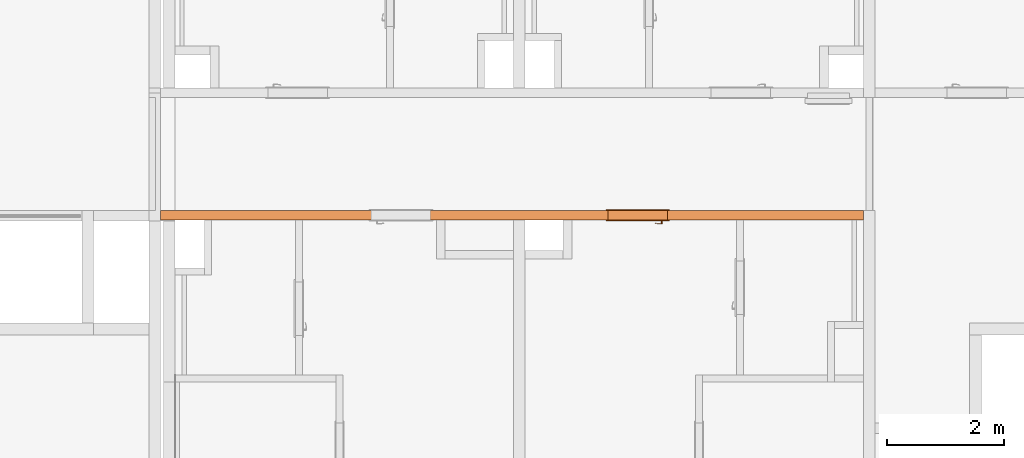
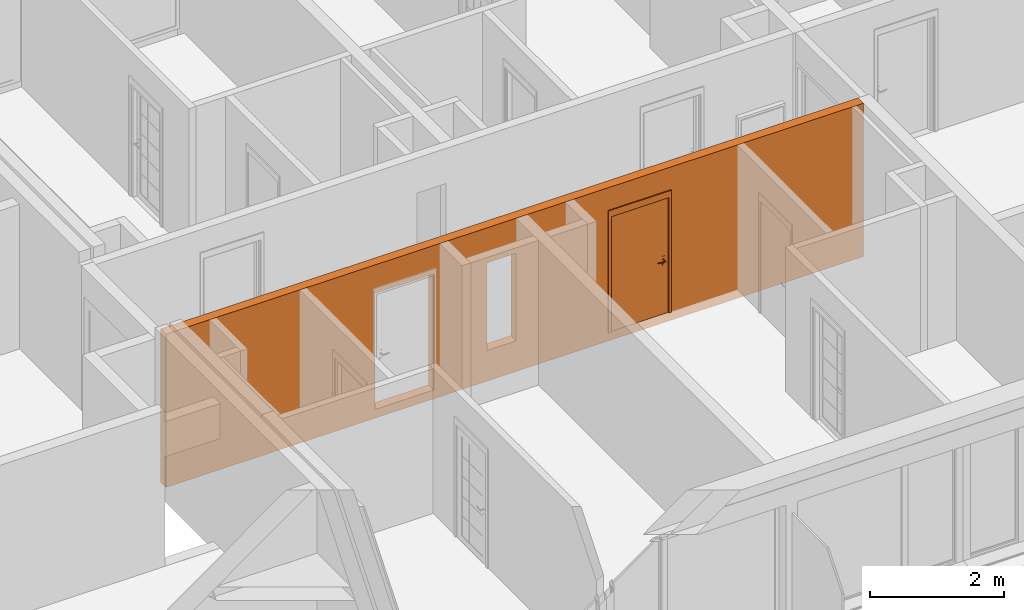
# One storey, part 24 of 67: 2 proxies, 3 openings.
"""IFC2X3 building model written with IfcOpenShell, lengths in millimetres."""

import ifcopenshell
import ifcopenshell.guid

model = None  # the IFC model being written
_history = None  # IfcOwnerHistory: only IFC2X3 demands one
_inside = {}  # id of a spatial element -> (the spatial element, [elements in it])
_under = {}  # id of a project, library or spatial element -> (it, [spatial elements below it])
_declared = {}  # id of a project -> (the project, [libraries it declares])
_typed = {}  # id of a type object -> (the type object, [elements of that type])
_made_of = {}  # id of a material, layer set ... -> (it, [elements and type objects made of it])


def new_model(schema):
    """Start an empty IFC model of exactly this schema.

    Asked for "IFC4X3", IfcOpenShell would pick the latest addendum, in which some entities
    have other attributes; the version numbers below select the first issue.
    IFC2X3 requires an IfcOwnerHistory on every rooted entity: one is made here for all.
    """
    global model, _history
    if schema == "IFC4X3":
        model = ifcopenshell.file(schema_version=(4, 3, 0, 0))
    else:
        model = ifcopenshell.file(schema=schema)
    _inside.clear()
    _under.clear()
    _declared.clear()
    _typed.clear()
    _made_of.clear()
    _history = None
    if model.schema == "IFC2X3":
        org = make("IfcOrganization", Name="unknown")
        user = make(
            "IfcPersonAndOrganization",
            ThePerson=make("IfcPerson", FamilyName="unknown"),
            TheOrganization=org,
        )
        app = make(
            "IfcApplication",
            ApplicationDeveloper=org,
            Version="unknown",
            ApplicationFullName="unknown",
            ApplicationIdentifier="unknown",
        )
        _history = make(
            "IfcOwnerHistory",
            OwningUser=user,
            OwningApplication=app,
            ChangeAction="ADDED",
            CreationDate=0,
        )
    return model


def make(cls, **values):
    """One entity of the class cls with the attributes given. An attribute that is None is left unset."""
    return model.create_entity(
        cls, **{name: value for name, value in values.items() if value is not None}
    )


def entity(cls, *values):
    """Any entity or typed value of the class cls, its attributes in the order of the schema. None: left unset."""
    e = model.create_entity(cls)
    for i, value in enumerate(values):
        if value is not None:
            e[i] = value
    return e


def rooted(cls, **values):
    """An entity with a GlobalId (a new one), such as an element, a storey or a relation."""
    return make(cls, GlobalId=ifcopenshell.guid.new(), OwnerHistory=_history, **values)


def si_unit(unit_type, name, prefix=None):
    """IfcSIUnit, for example si_unit("LENGTHUNIT", "METRE", prefix="MILLI")."""
    return make("IfcSIUnit", UnitType=unit_type, Prefix=prefix, Name=name)


def converted_unit(unit_type, name, factor, base, dimensions=None, offset=None):
    """IfcConversionBasedUnit, such as the inch: factor (a typed value) times the base unit."""
    return make(
        "IfcConversionBasedUnit"
        if offset is None
        else "IfcConversionBasedUnitWithOffset",
        ConversionOffset=offset,
        Dimensions=None
        if dimensions is None
        else entity("IfcDimensionalExponents", *dimensions),
        UnitType=unit_type,
        Name=name,
        ConversionFactor=make(
            "IfcMeasureWithUnit", ValueComponent=factor, UnitComponent=base
        ),
    )


def derived_unit(unit_type, elements):
    """IfcDerivedUnit: a product of units, each with its exponent."""
    return make(
        "IfcDerivedUnit",
        Elements=[
            make("IfcDerivedUnitElement", Unit=unit, Exponent=power)
            for unit, power in elements
        ],
        UnitType=unit_type,
    )


def money_unit(currency):
    """IfcMonetaryUnit."""
    return make("IfcMonetaryUnit", Currency=currency)


def assignment(units):
    """IfcUnitAssignment: the units of a project."""
    return None if units is None else make("IfcUnitAssignment", Units=units)


def point(xyz):
    """IfcCartesianPoint."""
    return None if xyz is None else make("IfcCartesianPoint", Coordinates=xyz)


def direction(xyz):
    """IfcDirection."""
    return None if xyz is None else make("IfcDirection", DirectionRatios=xyz)


def frame(location, z_axis=None, x_axis=None):
    """IfcAxis2Placement3D, a coordinate frame: its origin and axes. An axis left out is left unset."""
    return make(
        "IfcAxis2Placement3D",
        Location=point(location),
        Axis=direction(z_axis),
        RefDirection=direction(x_axis),
    )


def frame_2d(location, x_axis=None):
    """IfcAxis2Placement2D, a coordinate frame in the plane: its origin and x axis."""
    return make(
        "IfcAxis2Placement2D", Location=point(location), RefDirection=direction(x_axis)
    )


def origin_with_axes():
    """The frame at (0, 0, 0) with the z axis (0, 0, 1) and the x axis (1, 0, 0) written out."""
    return frame((0.0, 0.0, 0.0), z_axis=(0.0, 0.0, 1.0), x_axis=(1.0, 0.0, 0.0))


def origin_2d_with_axis():
    """The frame at (0, 0) in the plane with the x axis (1, 0) written out."""
    return frame_2d((0.0, 0.0), x_axis=(1.0, 0.0))


def place(relative_to, where):
    """IfcLocalPlacement: puts the frame where relative to a parent placement (None: the world)."""
    return make(
        "IfcLocalPlacement", PlacementRelTo=relative_to, RelativePlacement=where
    )


def context(
    kind, dimensions, precision=None, world=None, true_north=None, identifier=None
):
    """IfcGeometricRepresentationContext, for example the 3D "Model" context."""
    return make(
        "IfcGeometricRepresentationContext",
        ContextIdentifier=identifier,
        ContextType=kind,
        CoordinateSpaceDimension=dimensions,
        Precision=precision,
        WorldCoordinateSystem=world,
        TrueNorth=true_north,
    )


def subcontext(parent, identifier, kind, view, scale=None):
    """IfcGeometricRepresentationSubContext, for example "Body" below "Model"."""
    return make(
        "IfcGeometricRepresentationSubContext",
        ContextIdentifier=identifier,
        ContextType=kind,
        ParentContext=parent,
        TargetScale=scale,
        TargetView=view,
    )


def project(units=None, contexts=None):
    """IfcProject with its units and contexts."""
    return rooted(
        "IfcProject",
        Name="project",
        RepresentationContexts=contexts,
        UnitsInContext=assignment(units),
    )


def spatial(cls, under=None, at=None, **own):
    """A site, building, storey or space (cls), placed at a placement, below another one or the project."""
    s = rooted(cls, ObjectPlacement=at, **own)
    if under is not None:
        _under.setdefault(under.id(), (under, []))[1].append(s)
    return s


def profile(cls, at=None, kind="AREA", **sizes):
    """A parametric profile (cls). Its sizes go by their IFC names, for example OverallWidth=200.0."""
    return make(cls, ProfileType=kind, Position=at, **sizes)


def rectangle(**sizes):
    """IfcRectangleProfileDef."""
    return profile("IfcRectangleProfileDef", **sizes)


def extrude(swept, where, along, depth):
    """IfcExtrudedAreaSolid: the profile swept, set in the frame where, extruded along a direction by depth."""
    return make(
        "IfcExtrudedAreaSolid",
        SweptArea=swept,
        Position=where,
        ExtrudedDirection=direction(along),
        Depth=depth,
    )


def faces_of(points, faces, orient=None, outer=None):
    """IfcFace entities. A face is a list of loops; a loop is a list of indices into points, from 0.

    orient and outer hold one flag for each loop. By default every Orientation is true, the
    first loop of a face is its IfcFaceOuterBound and the others are IfcFaceBound.
    """
    made = []
    for i, loops in enumerate(faces):
        bounds = []
        for j, loop in enumerate(loops):
            is_outer = j == 0 if outer is None else outer[i][j]
            bounds.append(
                make(
                    "IfcFaceOuterBound" if is_outer else "IfcFaceBound",
                    Bound=make("IfcPolyLoop", Polygon=[points[k] for k in loop]),
                    Orientation=True if orient is None else orient[i][j],
                )
            )
        made.append(make("IfcFace", Bounds=bounds))
    return made


def open_shell(faces, orient=None, outer=None):
    """The faces of one IfcOpenShell. surface_model builds it on its shared points."""
    return ("IfcOpenShell", faces, orient, outer)


def faceted_brep(points, faces, orient=None, outer=None, voids=None):
    """IfcFacetedBrep: a solid bounded by flat faces; with voids (closed shells), ...WithVoids."""
    shared = [point(p) for p in points]
    hull = make("IfcClosedShell", CfsFaces=faces_of(shared, faces, orient, outer))
    if voids is None:
        return make("IfcFacetedBrep", Outer=hull)
    return make(
        "IfcFacetedBrepWithVoids",
        Outer=hull,
        Voids=[
            make(cls, CfsFaces=faces_of(shared, fs, o, b)) for cls, fs, o, b in voids
        ],
    )


def surface_model(cls, points, shells):
    """IfcFaceBasedSurfaceModel or IfcShellBasedSurfaceModel (cls): surfaces that need not close."""
    shared = [point(p) for p in points]
    made = [make(c, CfsFaces=faces_of(shared, fs, o, b)) for c, fs, o, b in shells]
    if cls == "IfcFaceBasedSurfaceModel":
        return make(cls, FbsmFaces=made)
    return make(cls, SbsmBoundary=made)


def shape(context_of_items, identifier, shape_type, items):
    """IfcShapeRepresentation: the items that make up one representation, for example the "Body"."""
    return make(
        "IfcShapeRepresentation",
        ContextOfItems=context_of_items,
        RepresentationIdentifier=identifier,
        RepresentationType=shape_type,
        Items=items,
    )


def source(mapping_origin, context_of_items, identifier, shape_type, items):
    """IfcRepresentationMap: a shape defined once, which mapped items show again and again."""
    return make(
        "IfcRepresentationMap",
        MappingOrigin=mapping_origin,
        MappedRepresentation=shape(context_of_items, identifier, shape_type, items),
    )


def transform(
    local_origin,
    x_axis=None,
    y_axis=None,
    z_axis=None,
    scale=None,
    scale2=None,
    scale3=None,
    uniform=True,
):
    """IfcCartesianTransformationOperator3D, or its non-uniform kind. x_axis, y_axis, z_axis: its Axis1, 2, 3."""
    if uniform:
        return make(
            "IfcCartesianTransformationOperator3D",
            Axis1=direction(x_axis),
            Axis2=direction(y_axis),
            LocalOrigin=point(local_origin),
            Scale=scale,
            Axis3=direction(z_axis),
        )
    return make(
        "IfcCartesianTransformationOperator3DnonUniform",
        Axis1=direction(x_axis),
        Axis2=direction(y_axis),
        LocalOrigin=point(local_origin),
        Scale=scale,
        Axis3=direction(z_axis),
        Scale2=scale2,
        Scale3=scale3,
    )


def mapped(mapping_source, mapping_target):
    """IfcMappedItem: shows the shape of a source again, moved by a transform."""
    return make(
        "IfcMappedItem", MappingSource=mapping_source, MappingTarget=mapping_target
    )


def material(Name=None, Category=None):
    """IfcMaterial."""
    return make("IfcMaterial", Name=Name, Category=Category)


def made_of(thing, what):
    """Note that an element or type object is made of a material, layer set ...; save() writes the relation."""
    if what is not None:
        _made_of.setdefault(what.id(), (what, []))[1].append(thing)
    return thing


def type_object(cls, material=None, **own):
    """A type object (cls), such as IfcWallType, which elements share."""
    return made_of(rooted(cls, **own), material)


def element(
    cls,
    number,
    at=None,
    inside=None,
    cuts=None,
    type_object=None,
    material=None,
    context=None,
    identifier="Body",
    shape_type=None,
    held_by="IfcProductDefinitionShape",
    body=None,
    shapes=None,
    **own,
):
    """One element of the class cls, such as IfcWall. Its Tag is "e" and its number.

    at: its placement. inside: the storey or other place that contains it. cuts: it is an
    opening in that element (IfcRelVoidsElement). A single representation is given by context,
    identifier, shape_type and body (its items); several are given by shapes. held_by: the class
    of the entity that holds the representations. save() writes the other relations.
    """
    e = rooted(cls, Tag="e%d" % number, ObjectPlacement=at, **own)
    if body is not None:
        shapes = [shape(context, identifier, shape_type, body)]
    if shapes is not None:
        e.Representation = make(held_by, Representations=shapes)
    if inside is not None:
        _inside.setdefault(inside.id(), (inside, []))[1].append(e)
    if cuts is not None:
        rooted(
            "IfcRelVoidsElement", RelatingBuildingElement=cuts, RelatedOpeningElement=e
        )
    if type_object is not None:
        _typed.setdefault(type_object.id(), (type_object, []))[1].append(e)
    return made_of(e, material)


def fill(opening, filler):
    """IfcRelFillsElement: the door or window that sits in an opening."""
    return rooted(
        "IfcRelFillsElement",
        RelatingOpeningElement=opening,
        RelatedBuildingElement=filler,
    )


def aggregate(whole, parts):
    """IfcRelAggregates: a whole, such as a stair, and the parts it consists of."""
    return rooted("IfcRelAggregates", RelatingObject=whole, RelatedObjects=parts)


def save(model, path):
    """Write the relations noted so far, then the file.

    IfcRelAggregates (storeys below a building ...), IfcRelContainedInSpatialStructure (elements
    in a storey), IfcRelDefinesByType, IfcRelAssociatesMaterial and IfcRelDeclares: one each for
    every whole, place, type object, material and project.
    """
    for whole, parts in _under.values():
        aggregate(whole, parts)
    for where, things in _inside.values():
        rooted(
            "IfcRelContainedInSpatialStructure",
            RelatedElements=things,
            RelatingStructure=where,
        )
    for kind, things in _typed.values():
        rooted("IfcRelDefinesByType", RelatedObjects=things, RelatingType=kind)
    for what, things in _made_of.values():
        rooted("IfcRelAssociatesMaterial", RelatedObjects=things, RelatingMaterial=what)
    for by, libraries in _declared.values():
        rooted("IfcRelDeclares", RelatingContext=by, RelatedDefinitions=libraries)
    model.write(path)


model = new_model("IFC2X3")

# Units and contexts
model_context = context("Model", 3, precision=0.01, world=origin_with_axes(), true_north=direction((0.34421633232, 0.938890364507)))
body_context = subcontext(model_context, "Body", "Model", "MODEL_VIEW")
ifc_project = project(units=[si_unit("LENGTHUNIT", "METRE", prefix="MILLI"), si_unit("AREAUNIT", "SQUARE_METRE"), si_unit("VOLUMEUNIT", "CUBIC_METRE"), converted_unit("PLANEANGLEUNIT", "DEGREE", entity("IfcPlaneAngleMeasure", 0.0174532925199), si_unit("PLANEANGLEUNIT", "RADIAN"), dimensions=[0, 0, 0, 0, 0, 0, 0]), si_unit("SOLIDANGLEUNIT", "STERADIAN"), money_unit("USD"), converted_unit("TIMEUNIT", "Year", entity("IfcTimeMeasure", 31556926.0), si_unit("TIMEUNIT", "SECOND"), dimensions=[0, 0, 1, 0, 0, 0, 0]), si_unit("MASSUNIT", "GRAM", prefix="KILO"), si_unit("THERMODYNAMICTEMPERATUREUNIT", "DEGREE_CELSIUS"), si_unit("LUMINOUSINTENSITYUNIT", "LUMEN"), si_unit("ENERGYUNIT", "JOULE", prefix="MEGA"), derived_unit("THERMALCONDUCTANCEUNIT", [(si_unit("POWERUNIT", "WATT"), 1), (si_unit("LENGTHUNIT", "METRE"), -1), (si_unit("THERMODYNAMICTEMPERATUREUNIT", "KELVIN"), -1)]), derived_unit("SPECIFICHEATCAPACITYUNIT", [(si_unit("ENERGYUNIT", "JOULE"), 1), (si_unit("MASSUNIT", "GRAM", prefix="KILO"), -1), (si_unit("THERMODYNAMICTEMPERATUREUNIT", "KELVIN"), -1)]), derived_unit("MASSDENSITYUNIT", [(si_unit("MASSUNIT", "GRAM", prefix="KILO"), 1), (si_unit("VOLUMEUNIT", "CUBIC_METRE"), -1)])], contexts=[model_context])

# Site, building, storey
site_placement = place(None, origin_with_axes())
site = spatial("IfcSite", under=ifc_project, at=site_placement, Name="USTRONIE MORSKIE", CompositionType="ELEMENT")
building_placement = place(site_placement, origin_with_axes())
building = spatial("IfcBuilding", under=site, at=building_placement, Name="Budynek", CompositionType="ELEMENT")
storey_placement = place(building_placement, frame((0.0, 0.0, 4000.0), z_axis=(0.0, 0.0, 1.0), x_axis=(1.0, 0.0, 0.0)))
storey = spatial("IfcBuildingStorey", under=building, at=storey_placement, Name="PIĘTRO 1", CompositionType="ELEMENT", Elevation=4000.0)

# Proxies, openings
ifc_material = material(Name="Beton konstrukcyjny B25")
building_element_proxy_type_1 = type_object("IfcBuildingElementProxyType", Name="Beton konstrukcyjny B25 160", PredefinedType="NOTDEFINED")
proxy_1_placement = place(storey_placement, frame((367067.920919, 734751.199024, -160.0), z_axis=(0.0, 0.0, 1.0), x_axis=(1.0, 3.09952852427e-07, 0.0)))
proxy_1 = element("IfcBuildingElementProxy", 1, at=proxy_1_placement, inside=storey, type_object=building_element_proxy_type_1, material=ifc_material, Name="SW-01", context=body_context, shape_type="Brep", body=[
    faceted_brep([(12149.9999752, -80.0037659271, 2800.0), (12150.0000248, 79.996234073, 2800.0), (99.9999077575, 79.9999690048, 2800.0), (99.9998488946, -80.0000309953, 2800.0), (12149.9999752, -80.0037659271, 0.0), (12150.0000248, 79.996234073, 0.0), (99.9999077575, 79.9999690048, 0.0), (99.9998488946, -80.0000309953, 0.0)], [[[0, 1, 2, 3]], [[1, 0, 4, 5]], [[1, 5, 6, 2]], [[7, 3, 2, 6]], [[4, 0, 3, 7]], [[5, 4, 7, 6]]]),
])
opening_1_placement = place(proxy_1_placement, frame((8279.98054114, 1.13686837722e-10, 160.0), z_axis=(0.0, 0.0, 1.0), x_axis=(1.0, 0.0, 0.0)))
opening_1 = element("IfcOpeningElement", 2, at=opening_1_placement, cuts=proxy_1, Name="Dw.1", context=body_context, shape_type="SweptSolid", body=[
    extrude(rectangle(XDim=1020.0, YDim=2120.0, at=origin_2d_with_axis()), frame((7.43891064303e-05, 160.0, 1060.0), z_axis=(-3.09952852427e-07, -1.0, 0.0), x_axis=(-1.0, 3.09952852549e-07, 0.0)), (0.0, 0.0, 1.0), 480.0),
    extrude(rectangle(XDim=1094.0, YDim=2227.0, at=origin_2d_with_axis()), frame((4.9592074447e-05, 79.9974335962, 1113.5), z_axis=(-3.09952852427e-07, -1.0, 0.0), x_axis=(-1.0, 3.09952852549e-07, 0.0)), (0.0, 0.0, -1.0), 160.0),
    extrude(rectangle(XDim=1094.0, YDim=2227.0, at=origin_2d_with_axis()), frame((-3.97903932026e-10, -80.0025664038, 1113.5), z_axis=(3.09952852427e-07, 1.0, 0.0), x_axis=(-1.0, 3.09952852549e-07, 0.0)), (0.0, 0.0, -1.0), 160.0),
])
opening_2_placement = place(proxy_1_placement, frame((4220.01872898, 0.0, 160.0), z_axis=(0.0, 0.0, 1.0), x_axis=(1.0, 0.0, 0.0)))
element("IfcOpeningElement", 3, at=opening_2_placement, cuts=proxy_1, Name="Dw.1", context=body_context, shape_type="SweptSolid", body=[
    extrude(rectangle(XDim=1020.0, YDim=2120.0, at=origin_2d_with_axis()), frame((7.43888790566e-05, 160.0, 1060.0), z_axis=(3.09952852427e-07, 1.0, 0.0), x_axis=(1.0, -3.09952852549e-07, 0.0)), (0.0, 0.0, -1.0), 480.0),
    extrude(rectangle(XDim=1094.0, YDim=2227.0, at=origin_2d_with_axis()), frame((4.95922449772e-05, 79.9986919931, 1113.5), z_axis=(3.09952852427e-07, 1.0, 0.0), x_axis=(1.0, -3.09952852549e-07, 0.0)), (0.0, 0.0, 1.0), 160.0),
    extrude(rectangle(XDim=1094.0, YDim=2227.0, at=origin_2d_with_axis()), frame((-2.27373675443e-10, -80.0013080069, 1113.5), z_axis=(-3.09952852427e-07, -1.0, 0.0), x_axis=(1.0, -3.09952852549e-07, 0.0)), (0.0, 0.0, 1.0), 160.0),
])
opening_3_placement = place(proxy_1_placement, frame((5900.00032545, 0.0, 560.0), z_axis=(0.0, 0.0, 1.0), x_axis=(1.0, 0.0, 0.0)))
element("IfcOpeningElement", 4, at=opening_3_placement, cuts=proxy_1, Name="R.01", context=body_context, shape_type="SweptSolid", body=[
    extrude(rectangle(XDim=500.001816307, YDim=1600.0, at=origin_2d_with_axis()), frame((0.0, 79.9999999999, 800.0), z_axis=(0.0, -1.0, 0.0), x_axis=(1.0, 0.0, 0.0)), (0.0, 0.0, -1.0), 160.0),
    extrude(rectangle(XDim=500.001816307, YDim=1600.0, at=origin_2d_with_axis()), frame((0.0, 79.9999999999, 800.0), z_axis=(0.0, 1.0, 0.0), x_axis=(1.0, 0.0, 0.0)), (0.0, 0.0, -1.0), 160.0),
])
building_element_proxy_type_2 = type_object("IfcBuildingElementProxyType", Name="Drzwi 23", PredefinedType="NOTDEFINED")
shared_shape = source(origin_with_axes(), body_context, "Body", "SurfaceModel", [
    faceted_brep([(-510.0, -115.0, 0.0), (-485.0, -115.0, 0.0), (-485.0, -160.0, 0.0), (-510.0, -160.0, 0.0), (-510.0, -115.0, 2120.0), (-485.0, -115.0, 2095.0), (-485.0, -160.0, 2095.0), (-510.0, -160.0, 2120.0)], [[[0, 1, 2, 3]], [[0, 4, 5, 1]], [[1, 5, 6, 2]], [[3, 2, 6, 7]], [[4, 0, 3, 7]], [[5, 4, 7, 6]]]),
    faceted_brep([(510.0, -115.0, 2120.0), (485.0, -115.0, 2095.0), (485.0, -160.0, 2095.0), (510.0, -160.0, 2120.0), (510.0, -115.0, 0.0), (485.0, -115.0, 0.0), (485.0, -160.0, 0.0), (510.0, -160.0, 0.0)], [[[0, 1, 2, 3]], [[0, 4, 5, 1]], [[1, 5, 6, 2]], [[3, 2, 6, 7]], [[4, 0, 3, 7]], [[5, 4, 7, 6]]]),
    faceted_brep([(-485.0, -115.0, 2095.0), (485.0, -115.0, 2095.0), (485.0, -160.0, 2095.0), (-485.0, -160.0, 2095.0), (-510.0, -115.0, 2120.0), (510.0, -115.0, 2120.0), (510.0, -160.0, 2120.0), (-510.0, -160.0, 2120.0)], [[[0, 1, 2, 3]], [[0, 4, 5, 1]], [[1, 5, 6, 2]], [[3, 2, 6, 7]], [[4, 0, 3, 7]], [[5, 4, 7, 6]]]),
    faceted_brep([(-547.0, -179.0, 0.0), (-547.0, -160.0, 0.0), (-497.0, -160.0, 0.0), (-497.0, -179.0, 0.0), (-547.0, -179.0, 2227.0), (-547.0, -160.0, 2227.0), (-497.0, -160.0, 2107.0), (-497.0, -179.0, 2107.0)], [[[0, 1, 2, 3]], [[4, 5, 1, 0]], [[1, 5, 6, 2]], [[3, 2, 6, 7]], [[0, 3, 7, 4]], [[7, 6, 5, 4]]]),
    faceted_brep([(547.0, -179.0, 2227.0), (547.0, -160.0, 2227.0), (497.0, -160.0, 2107.0), (497.0, -179.0, 2107.0), (547.0, -179.0, 0.0), (547.0, -160.0, 0.0), (497.0, -160.0, 0.0), (497.0, -179.0, 0.0)], [[[0, 1, 2, 3]], [[4, 5, 1, 0]], [[1, 5, 6, 2]], [[3, 2, 6, 7]], [[0, 3, 7, 4]], [[7, 6, 5, 4]]]),
    faceted_brep([(-547.0, -179.0, 2227.0), (-547.0, -160.0, 2227.0), (-497.0, -160.0, 2107.0), (-497.0, -179.0, 2107.0), (547.0, -179.0, 2227.0), (547.0, -160.0, 2227.0), (497.0, -160.0, 2107.0), (497.0, -179.0, 2107.0)], [[[0, 1, 2, 3]], [[4, 5, 1, 0]], [[1, 5, 6, 2]], [[3, 2, 6, 7]], [[0, 3, 7, 4]], [[7, 6, 5, 4]]]),
    faceted_brep([(-547.0, 19.0, 0.0), (-497.0, 19.0, 0.0), (-497.0, 0.0, 0.0), (-547.0, 0.0, 0.0), (-547.0, 19.0, 2227.0), (-497.0, 19.0, 2107.0), (-497.0, 0.0, 2107.0), (-547.0, 0.0, 2227.0)], [[[0, 1, 2, 3]], [[0, 4, 5, 1]], [[1, 5, 6, 2]], [[3, 2, 6, 7]], [[4, 0, 3, 7]], [[5, 4, 7, 6]]]),
    faceted_brep([(547.0, 19.0, 2227.0), (497.0, 19.0, 2107.0), (497.0, 0.0, 2107.0), (547.0, 0.0, 2227.0), (547.0, 19.0, 0.0), (497.0, 19.0, 0.0), (497.0, 0.0, 0.0), (547.0, 0.0, 0.0)], [[[0, 1, 2, 3]], [[0, 4, 5, 1]], [[1, 5, 6, 2]], [[3, 2, 6, 7]], [[4, 0, 3, 7]], [[5, 4, 7, 6]]]),
    faceted_brep([(-547.0, 19.0, 2227.0), (-497.0, 19.0, 2107.0), (-497.0, 0.0, 2107.0), (-547.0, 0.0, 2227.0), (547.0, 19.0, 2227.0), (497.0, 19.0, 2107.0), (497.0, 0.0, 2107.0), (547.0, 0.0, 2227.0)], [[[0, 1, 2, 3]], [[0, 4, 5, 1]], [[1, 5, 6, 2]], [[3, 2, 6, 7]], [[4, 0, 3, 7]], [[5, 4, 7, 6]]]),
    faceted_brep([(-450.0, -40.0, 0.0), (-450.0, -40.0, 2050.0), (-450.0, -115.0, 2050.0), (-450.0, -115.0, 0.0), (-462.0, -40.0, 2050.0), (-462.0, -40.0, 0.0), (-462.0, 0.0, 2050.0), (-510.0, 0.0, 2050.0), (-510.0, -115.0, 2050.0), (-510.0, -115.0, 0.0), (-510.0, 0.0, 0.0), (-462.0, 0.0, 0.0)], [[[0, 1, 2, 3]], [[4, 1, 0, 5]], [[4, 6, 7, 8, 2, 1]], [[3, 2, 8, 9]], [[5, 0, 3, 9, 10, 11]], [[6, 4, 5, 11]], [[6, 11, 10, 7]], [[10, 9, 8, 7]]]),
    faceted_brep([(462.0, -40.0, 2050.0), (450.0, -40.0, 2050.0), (450.0, -115.0, 2050.0), (510.0, -115.0, 2050.0), (510.0, 0.0, 2050.0), (462.0, 0.0, 2050.0), (462.0, -40.0, 0.0), (450.0, -40.0, 0.0), (450.0, -115.0, 0.0), (510.0, -115.0, 0.0), (510.0, 0.0, 0.0), (462.0, 0.0, 0.0)], [[[0, 1, 2, 3, 4, 5]], [[1, 0, 6, 7]], [[1, 7, 8, 2]], [[3, 2, 8, 9]], [[4, 3, 9, 10]], [[11, 5, 4, 10]], [[0, 5, 11, 6]], [[6, 11, 10, 9, 8, 7]]]),
    faceted_brep([(-462.0, 0.0, 2062.0), (-462.0, 0.0, 2050.0), (-510.0, 0.0, 2050.0), (-510.0, 0.0, 2120.0), (510.0, 0.0, 2120.0), (510.0, 0.0, 2050.0), (462.0, 0.0, 2050.0), (462.0, 0.0, 2062.0), (-462.0, -40.0, 2062.0), (-462.0, -40.0, 2050.0), (-450.0, -40.0, 2050.0), (-450.0, -115.0, 2050.0), (-510.0, -115.0, 2050.0), (-510.0, -115.0, 2120.0), (510.0, -115.0, 2120.0), (510.0, -115.0, 2050.0), (462.0, -40.0, 2050.0), (450.0, -115.0, 2050.0), (450.0, -40.0, 2050.0), (462.0, -40.0, 2062.0)], [[[0, 1, 2, 3, 4, 5, 6, 7]], [[1, 0, 8, 9]], [[9, 10, 11, 12, 2, 1]], [[2, 12, 13, 3]], [[3, 13, 14, 4]], [[4, 14, 15, 5]], [[16, 6, 5, 15, 17, 18]], [[7, 6, 16, 19]], [[0, 7, 19, 8]], [[16, 18, 10, 9, 8, 19]], [[10, 18, 17, 11]], [[17, 15, 14, 13, 12, 11]]]),
    faceted_brep([(-440.5, -40.0, 1060.0), (-440.5, -43.0, 1060.0), (-383.5, -43.0, 1060.0), (-383.5, -40.0, 1060.0), (-440.5, -40.0, 870.0), (-440.5, -43.0, 870.0), (-383.5, -43.0, 870.0), (-383.5, -40.0, 870.0)], [[[0, 1, 2, 3]], [[4, 5, 1, 0]], [[1, 5, 6, 2]], [[3, 2, 6, 7]], [[0, 3, 7, 4]], [[7, 6, 5, 4]]]),
    faceted_brep([(-412.0, -104.0, 990.0), (-412.0, -111.0, 990.0), (-417.0, -111.0, 991.339745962), (-417.0, -104.0, 991.339745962), (-387.0, -104.0, 990.0), (-387.0, -111.0, 990.0), (-387.0, -111.0, 1010.0), (-412.0, -111.0, 1010.0), (-417.0, -111.0, 1008.66025404), (-420.660254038, -111.0, 1005.0), (-422.0, -111.0, 1000.0), (-420.660254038, -111.0, 995.0), (-420.660254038, -104.0, 995.0), (-422.0, -104.0, 1000.0), (-420.660254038, -104.0, 1005.0), (-417.0, -104.0, 1008.66025404), (-412.0, -104.0, 1010.0), (-387.0, -104.0, 1010.0)], [[[0, 1, 2, 3]], [[4, 5, 1, 0]], [[1, 5, 6, 7, 8, 9, 10, 11, 2]], [[3, 2, 11, 12]], [[0, 3, 12, 13, 14, 15, 16, 17, 4]], [[17, 6, 5, 4]], [[16, 7, 6, 17]], [[15, 8, 7, 16]], [[14, 9, 8, 15]], [[13, 10, 9, 14]], [[12, 11, 10, 13]]]),
    surface_model("IfcShellBasedSurfaceModel", [(-387.0, -104.0, 1010.0), (-373.596090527, -111.0, 1009.60730092), (-373.901717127, -104.0, 1009.60730092), (-387.0, -111.0, 1010.0), (-346.890283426, -108.663544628, 1008.82190275), (-373.901717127, -104.0, 990.392699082), (-387.0, -104.0, 990.0), (-387.0, -111.0, 990.0), (-373.596090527, -111.0, 990.392699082), (-346.890283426, -108.663544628, 991.178097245), (-347.804837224, -101.716818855, 1008.82190275), (-347.804837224, -101.716818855, 991.178097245), (-320.489735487, -104.008415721, 991.963495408), (-320.489735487, -104.008415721, 1008.03650459), (-322.006256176, -97.1678329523, 1008.03650459), (-322.006256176, -97.1678329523, 991.963495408), (-294.59537082, -97.0700416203, 992.748893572), (-294.59537082, -97.0700416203, 1007.25110643), (-296.702316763, -90.3876628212, 1007.25110643), (-296.702316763, -90.3876628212, 992.748893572), (-286.538795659, -94.1376880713, 993.0), (-286.538795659, -94.1376880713, 1007.0), (-288.829442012, -87.5221707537, 1007.0), (-288.829442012, -87.5221707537, 993.0)], [open_shell([[[0, 1, 2]], [[0, 3, 1]], [[2, 1, 4]], [[0, 2, 5, 6]], [[3, 7, 8, 1]], [[1, 8, 9, 4]], [[2, 4, 10]], [[2, 10, 11, 5]], [[5, 7, 6]], [[5, 8, 7]], [[11, 9, 8]], [[4, 9, 12, 13]], [[10, 4, 13]], [[10, 14, 15, 11]], [[11, 8, 5]], [[15, 9, 11]], [[15, 12, 9]], [[13, 12, 16, 17]], [[10, 13, 14]], [[14, 18, 19, 15]], [[19, 12, 15]], [[19, 16, 12]], [[17, 16, 20, 21]], [[14, 13, 17]], [[14, 17, 18]], [[18, 22, 23, 19]], [[23, 16, 19]], [[23, 20, 16]], [[22, 21, 20, 23]], [[18, 17, 21]], [[18, 21, 22]]])]),
    faceted_brep([(-401.607695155, -53.0, 994.0), (-400.741669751, -43.0, 993.5), (-399.0, -43.0, 1000.0), (-400.0, -53.0, 1000.0), (-406.0, -53.0, 989.607695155), (-405.5, -43.0, 988.741669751), (-412.0, -43.0, 987.0), (-418.5, -43.0, 988.741669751), (-423.258330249, -43.0, 993.5), (-425.0, -43.0, 1000.0), (-423.258330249, -43.0, 1006.5), (-418.5, -43.0, 1011.25833025), (-412.0, -43.0, 1013.0), (-405.5, -43.0, 1011.25833025), (-400.741669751, -43.0, 1006.5), (-401.607695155, -53.0, 1006.0), (-406.0, -53.0, 1010.39230485), (-412.0, -53.0, 1012.0), (-418.0, -53.0, 1010.39230485), (-422.392304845, -53.0, 1006.0), (-424.0, -53.0, 1000.0), (-422.392304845, -53.0, 994.0), (-418.0, -53.0, 989.607695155), (-412.0, -53.0, 988.0)], [[[0, 1, 2, 3]], [[4, 5, 1, 0]], [[2, 1, 5, 6, 7, 8, 9, 10, 11, 12, 13, 14]], [[3, 2, 14, 15]], [[3, 15, 16, 17, 18, 19, 20, 21, 22, 23, 4, 0]], [[23, 6, 5, 4]], [[22, 7, 6, 23]], [[21, 8, 7, 22]], [[20, 9, 8, 21]], [[19, 10, 9, 20]], [[18, 11, 10, 19]], [[17, 12, 11, 18]], [[16, 13, 12, 17]], [[15, 14, 13, 16]]]),
    faceted_brep([(-394.679491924, -47.0, 895.0), (-392.947441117, -43.0, 894.0), (-390.0, -43.0, 905.0), (-392.0, -47.0, 905.0), (-402.0, -47.0, 887.679491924), (-401.0, -43.0, 885.947441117), (-412.0, -43.0, 883.0), (-423.0, -43.0, 885.947441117), (-431.052558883, -43.0, 894.0), (-434.0, -43.0, 905.0), (-431.052558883, -43.0, 916.0), (-423.0, -43.0, 924.052558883), (-412.0, -43.0, 927.0), (-401.0, -43.0, 924.052558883), (-392.947441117, -43.0, 916.0), (-394.679491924, -47.0, 915.0), (-402.0, -47.0, 922.320508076), (-412.0, -47.0, 925.0), (-422.0, -47.0, 922.320508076), (-429.320508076, -47.0, 915.0), (-432.0, -47.0, 905.0), (-429.320508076, -47.0, 895.0), (-422.0, -47.0, 887.679491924), (-412.0, -47.0, 885.0)], [[[0, 1, 2, 3]], [[4, 5, 1, 0]], [[2, 1, 5, 6, 7, 8, 9, 10, 11, 12, 13, 14]], [[3, 2, 14, 15]], [[3, 15, 16, 17, 18, 19, 20, 21, 22, 23, 4, 0]], [[23, 6, 5, 4]], [[22, 7, 6, 23]], [[21, 8, 7, 22]], [[20, 9, 8, 21]], [[19, 10, 9, 20]], [[18, 11, 10, 19]], [[17, 12, 11, 18]], [[16, 13, 12, 17]], [[15, 14, 13, 16]]]),
    faceted_brep([(-407.050252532, -49.0, 909.050252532), (-406.343145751, -47.0, 908.343145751), (-404.0, -47.0, 914.0), (-405.0, -49.0, 914.0), (-412.0, -49.0, 907.0), (-412.0, -47.0, 906.0), (-417.656854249, -47.0, 908.343145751), (-420.0, -47.0, 914.0), (-417.656854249, -47.0, 919.656854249), (-412.0, -47.0, 922.0), (-406.343145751, -47.0, 919.656854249), (-407.050252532, -49.0, 918.949747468), (-412.0, -49.0, 921.0), (-416.949747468, -49.0, 918.949747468), (-419.0, -49.0, 914.0), (-416.949747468, -49.0, 909.050252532)], [[[0, 1, 2, 3]], [[4, 5, 1, 0]], [[2, 1, 5, 6, 7, 8, 9, 10]], [[3, 2, 10, 11]], [[3, 11, 12, 13, 14, 15, 4, 0]], [[15, 6, 5, 4]], [[14, 7, 6, 15]], [[13, 8, 7, 14]], [[12, 9, 8, 13]], [[11, 10, 9, 12]]]),
    faceted_brep([(-412.0, -53.0, 1010.0), (-412.0, -104.0, 1010.0), (-407.0, -104.0, 1008.66025404), (-407.0, -53.0, 1008.66025404), (-417.0, -53.0, 1008.66025404), (-417.0, -104.0, 1008.66025404), (-420.660254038, -104.0, 1005.0), (-422.0, -104.0, 1000.0), (-420.660254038, -104.0, 995.0), (-417.0, -104.0, 991.339745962), (-412.0, -104.0, 990.0), (-407.0, -104.0, 991.339745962), (-403.339745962, -104.0, 995.0), (-402.0, -104.0, 1000.0), (-403.339745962, -104.0, 1005.0), (-403.339745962, -53.0, 1005.0), (-402.0, -53.0, 1000.0), (-403.339745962, -53.0, 995.0), (-407.0, -53.0, 991.339745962), (-412.0, -53.0, 990.0), (-417.0, -53.0, 991.339745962), (-420.660254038, -53.0, 995.0), (-422.0, -53.0, 1000.0), (-420.660254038, -53.0, 1005.0)], [[[0, 1, 2, 3]], [[4, 5, 1, 0]], [[1, 5, 6, 7, 8, 9, 10, 11, 12, 13, 14, 2]], [[3, 2, 14, 15]], [[0, 3, 15, 16, 17, 18, 19, 20, 21, 22, 23, 4]], [[23, 6, 5, 4]], [[22, 7, 6, 23]], [[21, 8, 7, 22]], [[20, 9, 8, 21]], [[19, 10, 9, 20]], [[18, 11, 10, 19]], [[17, 12, 11, 18]], [[16, 13, 12, 17]], [[15, 14, 13, 16]]]),
    faceted_brep([(-440.5, 0.0, 1060.0), (-383.5, 0.0, 1060.0), (-383.5, 3.0, 1060.0), (-440.5, 3.0, 1060.0), (-440.5, 0.0, 870.0), (-383.5, 0.0, 870.0), (-383.5, 3.0, 870.0), (-440.5, 3.0, 870.0)], [[[0, 1, 2, 3]], [[0, 4, 5, 1]], [[1, 5, 6, 2]], [[3, 2, 6, 7]], [[4, 0, 3, 7]], [[5, 4, 7, 6]]]),
    faceted_brep([(-412.0, 64.0, 990.0), (-417.0, 64.0, 991.339745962), (-417.0, 71.0, 991.339745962), (-412.0, 71.0, 990.0), (-387.0, 64.0, 990.0), (-387.0, 64.0, 1010.0), (-412.0, 64.0, 1010.0), (-417.0, 64.0, 1008.66025404), (-420.660254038, 64.0, 1005.0), (-422.0, 64.0, 1000.0), (-420.660254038, 64.0, 995.0), (-420.660254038, 71.0, 995.0), (-422.0, 71.0, 1000.0), (-420.660254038, 71.0, 1005.0), (-417.0, 71.0, 1008.66025404), (-412.0, 71.0, 1010.0), (-387.0, 71.0, 1010.0), (-387.0, 71.0, 990.0)], [[[0, 1, 2, 3]], [[0, 4, 5, 6, 7, 8, 9, 10, 1]], [[1, 10, 11, 2]], [[3, 2, 11, 12, 13, 14, 15, 16, 17]], [[4, 0, 3, 17]], [[5, 4, 17, 16]], [[6, 5, 16, 15]], [[7, 6, 15, 14]], [[8, 7, 14, 13]], [[9, 8, 13, 12]], [[10, 9, 12, 11]]]),
    surface_model("IfcShellBasedSurfaceModel", [(-387.0, 64.0, 1010.0), (-373.901717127, 64.0, 1009.60730092), (-373.596090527, 71.0, 1009.60730092), (-387.0, 64.0, 990.0), (-373.901717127, 64.0, 990.392699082), (-346.890283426, 68.6635446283, 1008.82190275), (-387.0, 71.0, 1010.0), (-387.0, 71.0, 990.0), (-347.804837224, 61.716818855, 991.178097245), (-347.804837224, 61.716818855, 1008.82190275), (-346.890283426, 68.6635446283, 991.178097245), (-373.596090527, 71.0, 990.392699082), (-322.006256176, 57.1678329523, 991.963495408), (-322.006256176, 57.1678329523, 1008.03650459), (-320.489735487, 64.0084157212, 1008.03650459), (-320.489735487, 64.0084157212, 991.963495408), (-296.702316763, 50.3876628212, 992.748893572), (-296.702316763, 50.3876628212, 1007.25110643), (-294.59537082, 57.0700416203, 1007.25110643), (-294.59537082, 57.0700416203, 992.748893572), (-288.829442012, 47.5221707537, 993.0), (-288.829442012, 47.5221707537, 1007.0), (-286.538795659, 54.1376880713, 1007.0), (-286.538795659, 54.1376880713, 993.0)], [open_shell([[[0, 1, 2]], [[0, 3, 4, 1]], [[1, 5, 2]], [[0, 2, 6]], [[4, 3, 7]], [[1, 4, 8, 9]], [[1, 9, 5]], [[2, 5, 10, 11]], [[6, 2, 11, 7]], [[4, 7, 11]], [[8, 4, 11]], [[9, 8, 12, 13]], [[9, 14, 5]], [[5, 14, 15, 10]], [[8, 11, 10]], [[12, 8, 10]], [[13, 12, 16, 17]], [[9, 13, 14]], [[14, 18, 19, 15]], [[12, 10, 15]], [[16, 12, 15]], [[17, 16, 20, 21]], [[13, 17, 18]], [[13, 18, 14]], [[18, 22, 23, 19]], [[16, 15, 19]], [[20, 16, 19]], [[21, 20, 23, 22]], [[17, 21, 22]], [[17, 22, 18]], [[20, 19, 23]]])]),
    faceted_brep([(-401.607695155, 13.0, 994.0), (-400.0, 13.0, 1000.0), (-399.0, 3.0, 1000.0), (-400.741669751, 3.0, 993.5), (-406.0, 13.0, 989.607695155), (-412.0, 13.0, 988.0), (-418.0, 13.0, 989.607695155), (-422.392304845, 13.0, 994.0), (-424.0, 13.0, 1000.0), (-422.392304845, 13.0, 1006.0), (-418.0, 13.0, 1010.39230485), (-412.0, 13.0, 1012.0), (-406.0, 13.0, 1010.39230485), (-401.607695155, 13.0, 1006.0), (-400.741669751, 3.0, 1006.5), (-405.5, 3.0, 1011.25833025), (-412.0, 3.0, 1013.0), (-418.5, 3.0, 1011.25833025), (-423.258330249, 3.0, 1006.5), (-425.0, 3.0, 1000.0), (-423.258330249, 3.0, 993.5), (-418.5, 3.0, 988.741669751), (-412.0, 3.0, 987.0), (-405.5, 3.0, 988.741669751)], [[[0, 1, 2, 3]], [[1, 0, 4, 5, 6, 7, 8, 9, 10, 11, 12, 13]], [[1, 13, 14, 2]], [[2, 14, 15, 16, 17, 18, 19, 20, 21, 22, 23, 3]], [[4, 0, 3, 23]], [[5, 4, 23, 22]], [[6, 5, 22, 21]], [[7, 6, 21, 20]], [[8, 7, 20, 19]], [[9, 8, 19, 18]], [[10, 9, 18, 17]], [[11, 10, 17, 16]], [[12, 11, 16, 15]], [[13, 12, 15, 14]]]),
    faceted_brep([(-394.679491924, 7.0, 895.0), (-392.0, 7.0, 905.0), (-390.0, 3.0, 905.0), (-392.947441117, 3.0, 894.0), (-402.0, 7.0, 887.679491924), (-412.0, 7.0, 885.0), (-422.0, 7.0, 887.679491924), (-429.320508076, 7.0, 895.0), (-432.0, 7.0, 905.0), (-429.320508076, 7.0, 915.0), (-422.0, 7.0, 922.320508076), (-412.0, 7.0, 925.0), (-402.0, 7.0, 922.320508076), (-394.679491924, 7.0, 915.0), (-392.947441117, 3.0, 916.0), (-401.0, 3.0, 924.052558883), (-412.0, 3.0, 927.0), (-423.0, 3.0, 924.052558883), (-431.052558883, 3.0, 916.0), (-434.0, 3.0, 905.0), (-431.052558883, 3.0, 894.0), (-423.0, 3.0, 885.947441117), (-412.0, 3.0, 883.0), (-401.0, 3.0, 885.947441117)], [[[0, 1, 2, 3]], [[1, 0, 4, 5, 6, 7, 8, 9, 10, 11, 12, 13]], [[1, 13, 14, 2]], [[2, 14, 15, 16, 17, 18, 19, 20, 21, 22, 23, 3]], [[4, 0, 3, 23]], [[5, 4, 23, 22]], [[6, 5, 22, 21]], [[7, 6, 21, 20]], [[8, 7, 20, 19]], [[9, 8, 19, 18]], [[10, 9, 18, 17]], [[11, 10, 17, 16]], [[12, 11, 16, 15]], [[13, 12, 15, 14]]]),
    faceted_brep([(-407.050252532, 9.0, 909.050252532), (-405.0, 9.0, 914.0), (-404.0, 7.0, 914.0), (-406.343145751, 7.0, 908.343145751), (-412.0, 9.0, 907.0), (-416.949747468, 9.0, 909.050252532), (-419.0, 9.0, 914.0), (-416.949747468, 9.0, 918.949747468), (-412.0, 9.0, 921.0), (-407.050252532, 9.0, 918.949747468), (-406.343145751, 7.0, 919.656854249), (-412.0, 7.0, 922.0), (-417.656854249, 7.0, 919.656854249), (-420.0, 7.0, 914.0), (-417.656854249, 7.0, 908.343145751), (-412.0, 7.0, 906.0)], [[[0, 1, 2, 3]], [[1, 0, 4, 5, 6, 7, 8, 9]], [[1, 9, 10, 2]], [[2, 10, 11, 12, 13, 14, 15, 3]], [[4, 0, 3, 15]], [[5, 4, 15, 14]], [[6, 5, 14, 13]], [[7, 6, 13, 12]], [[8, 7, 12, 11]], [[9, 8, 11, 10]]]),
    faceted_brep([(-412.0, 13.0, 1010.0), (-407.0, 13.0, 1008.66025404), (-407.0, 64.0, 1008.66025404), (-412.0, 64.0, 1010.0), (-417.0, 13.0, 1008.66025404), (-420.660254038, 13.0, 1005.0), (-422.0, 13.0, 1000.0), (-420.660254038, 13.0, 995.0), (-417.0, 13.0, 991.339745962), (-412.0, 13.0, 990.0), (-407.0, 13.0, 991.339745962), (-403.339745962, 13.0, 995.0), (-402.0, 13.0, 1000.0), (-403.339745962, 13.0, 1005.0), (-403.339745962, 64.0, 1005.0), (-402.0, 64.0, 1000.0), (-403.339745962, 64.0, 995.0), (-407.0, 64.0, 991.339745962), (-412.0, 64.0, 990.0), (-417.0, 64.0, 991.339745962), (-420.660254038, 64.0, 995.0), (-422.0, 64.0, 1000.0), (-420.660254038, 64.0, 1005.0), (-417.0, 64.0, 1008.66025404)], [[[0, 1, 2, 3]], [[0, 4, 5, 6, 7, 8, 9, 10, 11, 12, 13, 1]], [[1, 13, 14, 2]], [[3, 2, 14, 15, 16, 17, 18, 19, 20, 21, 22, 23]], [[4, 0, 3, 23]], [[5, 4, 23, 22]], [[6, 5, 22, 21]], [[7, 6, 21, 20]], [[8, 7, 20, 19]], [[9, 8, 19, 18]], [[10, 9, 18, 17]], [[11, 10, 17, 16]], [[12, 11, 16, 15]], [[13, 12, 15, 14]]]),
    faceted_brep([(462.0, 0.0, 0.0), (462.0, -40.0, 0.0), (-462.0, -40.0, 0.0), (-462.0, 0.0, 0.0), (462.0, 0.0, 2062.0), (462.0, -40.0, 2062.0), (-462.0, -40.0, 2062.0), (-462.0, 0.0, 2062.0)], [[[0, 1, 2, 3]], [[4, 5, 1, 0]], [[1, 5, 6, 2]], [[3, 2, 6, 7]], [[0, 3, 7, 4]], [[7, 6, 5, 4]]]),
])
proxy_2_placement = place(opening_1_placement, frame((450.0, -2.27373675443e-10, 0.0), z_axis=(0.0, 0.0, 1.0), x_axis=(-1.0, 0.0, 0.0)))
proxy_2 = element("IfcBuildingElementProxy", 5, at=proxy_2_placement, inside=storey, type_object=building_element_proxy_type_2, Name="Dw.1", context=body_context, shape_type="MappedRepresentation", body=[
    mapped(shared_shape, transform((450.0, 80.0025664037, 0.0))),
])
fill(opening_1, proxy_2)

save(model, "model.ifc")
